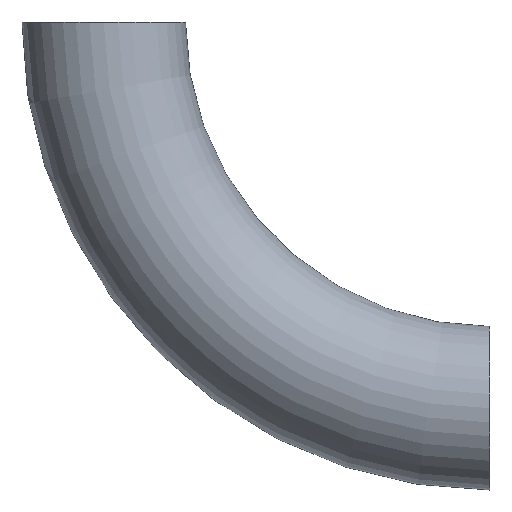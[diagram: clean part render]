
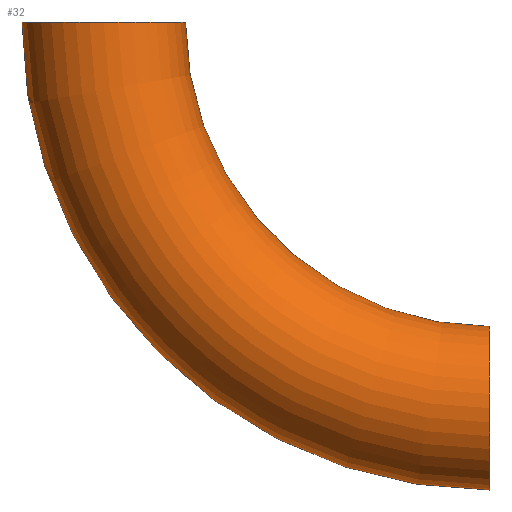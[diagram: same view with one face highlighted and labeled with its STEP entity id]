
A CAD part, front view. The second image highlights one B-rep face of the part: STEP entity #32.
In plain terms, the highlighted toroidal (fillet/blend) face has major radius 270 mm and minor radius 57.15 mm.
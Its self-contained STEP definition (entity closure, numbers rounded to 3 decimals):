
#2 = DIRECTION ( 'NONE',  ( 0., 1., 0. ) ) ;
#4 = AXIS2_PLACEMENT_3D ( 'NONE', #18, #53, #233 ) ;
#11 = CARTESIAN_POINT ( 'NONE',  ( 0., 0., -212.85 ) ) ;
#13 = CARTESIAN_POINT ( 'NONE',  ( -212.85, 0., 0. ) ) ;
#14 = VERTEX_POINT ( 'NONE', #13 ) ;
#15 = CARTESIAN_POINT ( 'NONE',  ( 0., 0., -327.15 ) ) ;
#18 = CARTESIAN_POINT ( 'NONE',  ( -270., 0., 0. ) ) ;
#32 = ADVANCED_FACE ( 'NONE', ( #75 ), #249, .T. ) ;
#39 = EDGE_CURVE ( 'NONE', #113, #242, #210, .T. ) ;
#45 = ORIENTED_EDGE ( 'NONE', *, *, #182, .T. ) ;
#47 = CARTESIAN_POINT ( 'NONE',  ( 0., 0., 0. ) ) ;
#53 = DIRECTION ( 'NONE',  ( 0., 0., 1. ) ) ;
#58 = VERTEX_POINT ( 'NONE', #11 ) ;
#61 = ORIENTED_EDGE ( 'NONE', *, *, #82, .T. ) ;
#68 = AXIS2_PLACEMENT_3D ( 'NONE', #47, #132, #116 ) ;
#71 = CARTESIAN_POINT ( 'NONE',  ( 0., 0., -270. ) ) ;
#75 = FACE_OUTER_BOUND ( 'NONE', #145, .T. ) ;
#77 = CARTESIAN_POINT ( 'NONE',  ( -327.15, 0., 0. ) ) ;
#79 = CIRCLE ( 'NONE', #208, 212.85 ) ;
#80 = ORIENTED_EDGE ( 'NONE', *, *, #39, .F. ) ;
#82 = EDGE_CURVE ( 'NONE', #113, #58, #199, .T. ) ;
#94 = AXIS2_PLACEMENT_3D ( 'NONE', #71, #253, #231 ) ;
#113 = VERTEX_POINT ( 'NONE', #15 ) ;
#114 = CIRCLE ( 'NONE', #4, 57.15 ) ;
#116 = DIRECTION ( 'NONE',  ( 0., 0., 1. ) ) ;
#119 = CARTESIAN_POINT ( 'NONE',  ( 0., 0., 0. ) ) ;
#132 = DIRECTION ( 'NONE',  ( 0., 1., 0. ) ) ;
#133 = DIRECTION ( 'NONE',  ( 0., 0., 1. ) ) ;
#134 = AXIS2_PLACEMENT_3D ( 'NONE', #153, #205, #133 ) ;
#145 = EDGE_LOOP ( 'NONE', ( #80, #61, #45, #207 ) ) ;
#153 = CARTESIAN_POINT ( 'NONE',  ( 0., 0., 0. ) ) ;
#182 = EDGE_CURVE ( 'NONE', #58, #14, #79, .T. ) ;
#199 = CIRCLE ( 'NONE', #94, 57.15 ) ;
#205 = DIRECTION ( 'NONE',  ( 0., 1., 0. ) ) ;
#207 = ORIENTED_EDGE ( 'NONE', *, *, #226, .F. ) ;
#208 = AXIS2_PLACEMENT_3D ( 'NONE', #119, #2, #214 ) ;
#210 = CIRCLE ( 'NONE', #134, 327.15 ) ;
#214 = DIRECTION ( 'NONE',  ( 0., 0., 1. ) ) ;
#226 = EDGE_CURVE ( 'NONE', #242, #14, #114, .T. ) ;
#231 = DIRECTION ( 'NONE',  ( 0., 0., 1. ) ) ;
#233 = DIRECTION ( 'NONE',  ( 1., 0., 0. ) ) ;
#242 = VERTEX_POINT ( 'NONE', #77 ) ;
#249 = TOROIDAL_SURFACE ( 'NONE', #68, 270., 57.15 ) ;
#253 = DIRECTION ( 'NONE',  ( -1., 0., 0. ) ) ;
